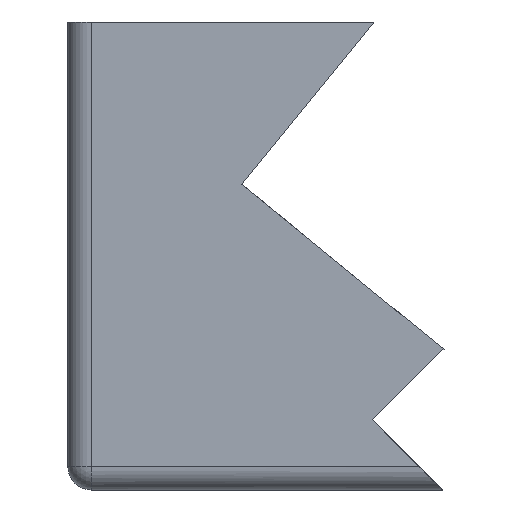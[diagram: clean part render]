
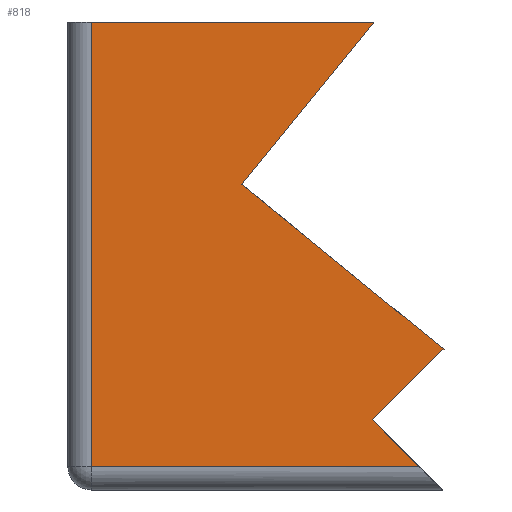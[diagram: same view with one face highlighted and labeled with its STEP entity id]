
A CAD part, front view. The second image highlights one B-rep face of the part: STEP entity #818.
In plain terms, the highlighted planar face has unit normal (0, -1, 0).
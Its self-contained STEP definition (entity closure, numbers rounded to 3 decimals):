
#32 = PLANE('',#33);
#33 = AXIS2_PLACEMENT_3D('',#34,#35,#36);
#34 = CARTESIAN_POINT('',(25.,0.,20.));
#35 = DIRECTION('',(0.,0.,-1.));
#36 = DIRECTION('',(-1.,0.,0.));
#57 = VERTEX_POINT('',#58);
#58 = CARTESIAN_POINT('',(-11.922,-45.,20.));
#72 = PLANE('',#73);
#73 = AXIS2_PLACEMENT_3D('',#74,#75,#76);
#74 = CARTESIAN_POINT('',(-17.58,0.,13.074));
#75 = DIRECTION('',(-0.774,0.,0.633));
#76 = DIRECTION('',(0.633,0.,0.774));
#84 = EDGE_CURVE('',#57,#85,#87,.T.);
#85 = VERTEX_POINT('',#86);
#86 = CARTESIAN_POINT('',(-24.,-45.,20.));
#87 = SURFACE_CURVE('',#88,(#92,#99),.PCURVE_S1.);
#88 = LINE('',#89,#90);
#89 = CARTESIAN_POINT('',(25.,-45.,20.));
#90 = VECTOR('',#91,1.);
#91 = DIRECTION('',(-1.,0.,0.));
#92 = PCURVE('',#32,#93);
#93 = DEFINITIONAL_REPRESENTATION('',(#94),#98);
#94 = LINE('',#95,#96);
#95 = CARTESIAN_POINT('',(0.,-45.));
#96 = VECTOR('',#97,1.);
#97 = DIRECTION('',(1.,0.));
#98 = ( GEOMETRIC_REPRESENTATION_CONTEXT(2) 
PARAMETRIC_REPRESENTATION_CONTEXT() REPRESENTATION_CONTEXT('2D SPACE',''
  ) );
#99 = PCURVE('',#100,#105);
#100 = PLANE('',#101);
#101 = AXIS2_PLACEMENT_3D('',#102,#103,#104);
#102 = CARTESIAN_POINT('',(0.,-45.,9.931));
#103 = DIRECTION('',(-0.,-1.,0.));
#104 = DIRECTION('',(0.,0.,-1.));
#105 = DEFINITIONAL_REPRESENTATION('',(#106),#110);
#106 = LINE('',#107,#108);
#107 = CARTESIAN_POINT('',(-10.069,25.));
#108 = VECTOR('',#109,1.);
#109 = DIRECTION('',(0.,-1.));
#110 = ( GEOMETRIC_REPRESENTATION_CONTEXT(2) 
PARAMETRIC_REPRESENTATION_CONTEXT() REPRESENTATION_CONTEXT('2D SPACE',''
  ) );
#133 = CYLINDRICAL_SURFACE('',#134,1.);
#134 = AXIS2_PLACEMENT_3D('',#135,#136,#137);
#135 = CARTESIAN_POINT('',(-24.,-44.,1.));
#136 = DIRECTION('',(0.,0.,1.));
#137 = DIRECTION('',(-1.,0.,0.));
#298 = PLANE('',#299);
#299 = AXIS2_PLACEMENT_3D('',#300,#301,#302);
#300 = CARTESIAN_POINT('',(-9.,0.,0.));
#301 = DIRECTION('',(-0.707,0.,-0.707
    ));
#302 = DIRECTION('',(-0.707,0.,0.707)
  );
#326 = PLANE('',#327);
#327 = AXIS2_PLACEMENT_3D('',#328,#329,#330);
#328 = CARTESIAN_POINT('',(-12.,0.,3.));
#329 = DIRECTION('',(-0.707,0.,0.707)
  );
#330 = DIRECTION('',(0.707,0.,0.707));
#354 = PLANE('',#355);
#355 = AXIS2_PLACEMENT_3D('',#356,#357,#358);
#356 = CARTESIAN_POINT('',(-9.,0.,6.));
#357 = DIRECTION('',(0.,0.,1.));
#358 = DIRECTION('',(1.,0.,0.));
#380 = PLANE('',#381);
#381 = AXIS2_PLACEMENT_3D('',#382,#383,#384);
#382 = CARTESIAN_POINT('',(-0.633,0.,-0.77));
#383 = DIRECTION('',(-0.633,0.,-0.774));
#384 = DIRECTION('',(-0.774,0.,0.633));
#768 = VERTEX_POINT('',#769);
#769 = CARTESIAN_POINT('',(-24.,-45.,1.));
#796 = EDGE_CURVE('',#768,#85,#797,.T.);
#797 = SURFACE_CURVE('',#798,(#802,#809),.PCURVE_S1.);
#798 = LINE('',#799,#800);
#799 = CARTESIAN_POINT('',(-24.,-45.,1.));
#800 = VECTOR('',#801,1.);
#801 = DIRECTION('',(0.,0.,1.));
#802 = PCURVE('',#133,#803);
#803 = DEFINITIONAL_REPRESENTATION('',(#804),#808);
#804 = LINE('',#805,#806);
#805 = CARTESIAN_POINT('',(1.571,0.));
#806 = VECTOR('',#807,1.);
#807 = DIRECTION('',(0.,1.));
#808 = ( GEOMETRIC_REPRESENTATION_CONTEXT(2) 
PARAMETRIC_REPRESENTATION_CONTEXT() REPRESENTATION_CONTEXT('2D SPACE',''
  ) );
#809 = PCURVE('',#100,#810);
#810 = DEFINITIONAL_REPRESENTATION('',(#811),#815);
#811 = LINE('',#812,#813);
#812 = CARTESIAN_POINT('',(8.931,-24.));
#813 = VECTOR('',#814,1.);
#814 = DIRECTION('',(-1.,0.));
#815 = ( GEOMETRIC_REPRESENTATION_CONTEXT(2) 
PARAMETRIC_REPRESENTATION_CONTEXT() REPRESENTATION_CONTEXT('2D SPACE',''
  ) );
#818 = ADVANCED_FACE('',(#819),#100,.T.);
#819 = FACE_BOUND('',#820,.T.);
#820 = EDGE_LOOP('',(#821,#822,#850,#873,#896,#919,#942,#963));
#821 = ORIENTED_EDGE('',*,*,#796,.F.);
#822 = ORIENTED_EDGE('',*,*,#823,.T.);
#823 = EDGE_CURVE('',#768,#824,#826,.T.);
#824 = VERTEX_POINT('',#825);
#825 = CARTESIAN_POINT('',(-10.,-45.,1.));
#826 = SURFACE_CURVE('',#827,(#831,#838),.PCURVE_S1.);
#827 = LINE('',#828,#829);
#828 = CARTESIAN_POINT('',(-25.,-45.,1.));
#829 = VECTOR('',#830,1.);
#830 = DIRECTION('',(1.,0.,0.));
#831 = PCURVE('',#100,#832);
#832 = DEFINITIONAL_REPRESENTATION('',(#833),#837);
#833 = LINE('',#834,#835);
#834 = CARTESIAN_POINT('',(8.931,-25.));
#835 = VECTOR('',#836,1.);
#836 = DIRECTION('',(0.,1.));
#837 = ( GEOMETRIC_REPRESENTATION_CONTEXT(2) 
PARAMETRIC_REPRESENTATION_CONTEXT() REPRESENTATION_CONTEXT('2D SPACE',''
  ) );
#838 = PCURVE('',#839,#844);
#839 = CYLINDRICAL_SURFACE('',#840,1.);
#840 = AXIS2_PLACEMENT_3D('',#841,#842,#843);
#841 = CARTESIAN_POINT('',(-25.,-44.,1.));
#842 = DIRECTION('',(1.,0.,0.));
#843 = DIRECTION('',(0.,-1.,0.));
#844 = DEFINITIONAL_REPRESENTATION('',(#845),#849);
#845 = LINE('',#846,#847);
#846 = CARTESIAN_POINT('',(0.,0.));
#847 = VECTOR('',#848,1.);
#848 = DIRECTION('',(0.,1.));
#849 = ( GEOMETRIC_REPRESENTATION_CONTEXT(2) 
PARAMETRIC_REPRESENTATION_CONTEXT() REPRESENTATION_CONTEXT('2D SPACE',''
  ) );
#850 = ORIENTED_EDGE('',*,*,#851,.T.);
#851 = EDGE_CURVE('',#824,#852,#854,.T.);
#852 = VERTEX_POINT('',#853);
#853 = CARTESIAN_POINT('',(-12.,-45.,3.));
#854 = SURFACE_CURVE('',#855,(#859,#866),.PCURVE_S1.);
#855 = LINE('',#856,#857);
#856 = CARTESIAN_POINT('',(-9.,-45.,0.));
#857 = VECTOR('',#858,1.);
#858 = DIRECTION('',(-0.707,0.,0.707)
  );
#859 = PCURVE('',#100,#860);
#860 = DEFINITIONAL_REPRESENTATION('',(#861),#865);
#861 = LINE('',#862,#863);
#862 = CARTESIAN_POINT('',(9.931,-9.));
#863 = VECTOR('',#864,1.);
#864 = DIRECTION('',(-0.707,-0.707));
#865 = ( GEOMETRIC_REPRESENTATION_CONTEXT(2) 
PARAMETRIC_REPRESENTATION_CONTEXT() REPRESENTATION_CONTEXT('2D SPACE',''
  ) );
#866 = PCURVE('',#298,#867);
#867 = DEFINITIONAL_REPRESENTATION('',(#868),#872);
#868 = LINE('',#869,#870);
#869 = CARTESIAN_POINT('',(0.,-45.));
#870 = VECTOR('',#871,1.);
#871 = DIRECTION('',(1.,0.));
#872 = ( GEOMETRIC_REPRESENTATION_CONTEXT(2) 
PARAMETRIC_REPRESENTATION_CONTEXT() REPRESENTATION_CONTEXT('2D SPACE',''
  ) );
#873 = ORIENTED_EDGE('',*,*,#874,.T.);
#874 = EDGE_CURVE('',#852,#875,#877,.T.);
#875 = VERTEX_POINT('',#876);
#876 = CARTESIAN_POINT('',(-9.,-45.,6.));
#877 = SURFACE_CURVE('',#878,(#882,#889),.PCURVE_S1.);
#878 = LINE('',#879,#880);
#879 = CARTESIAN_POINT('',(-12.,-45.,3.));
#880 = VECTOR('',#881,1.);
#881 = DIRECTION('',(0.707,0.,0.707));
#882 = PCURVE('',#100,#883);
#883 = DEFINITIONAL_REPRESENTATION('',(#884),#888);
#884 = LINE('',#885,#886);
#885 = CARTESIAN_POINT('',(6.931,-12.));
#886 = VECTOR('',#887,1.);
#887 = DIRECTION('',(-0.707,0.707));
#888 = ( GEOMETRIC_REPRESENTATION_CONTEXT(2) 
PARAMETRIC_REPRESENTATION_CONTEXT() REPRESENTATION_CONTEXT('2D SPACE',''
  ) );
#889 = PCURVE('',#326,#890);
#890 = DEFINITIONAL_REPRESENTATION('',(#891),#895);
#891 = LINE('',#892,#893);
#892 = CARTESIAN_POINT('',(0.,-45.));
#893 = VECTOR('',#894,1.);
#894 = DIRECTION('',(1.,0.));
#895 = ( GEOMETRIC_REPRESENTATION_CONTEXT(2) 
PARAMETRIC_REPRESENTATION_CONTEXT() REPRESENTATION_CONTEXT('2D SPACE',''
  ) );
#896 = ORIENTED_EDGE('',*,*,#897,.T.);
#897 = EDGE_CURVE('',#875,#898,#900,.T.);
#898 = VERTEX_POINT('',#899);
#899 = CARTESIAN_POINT('',(-8.92,-45.,6.));
#900 = SURFACE_CURVE('',#901,(#905,#912),.PCURVE_S1.);
#901 = LINE('',#902,#903);
#902 = CARTESIAN_POINT('',(-9.,-45.,6.));
#903 = VECTOR('',#904,1.);
#904 = DIRECTION('',(1.,0.,0.));
#905 = PCURVE('',#100,#906);
#906 = DEFINITIONAL_REPRESENTATION('',(#907),#911);
#907 = LINE('',#908,#909);
#908 = CARTESIAN_POINT('',(3.931,-9.));
#909 = VECTOR('',#910,1.);
#910 = DIRECTION('',(0.,1.));
#911 = ( GEOMETRIC_REPRESENTATION_CONTEXT(2) 
PARAMETRIC_REPRESENTATION_CONTEXT() REPRESENTATION_CONTEXT('2D SPACE',''
  ) );
#912 = PCURVE('',#354,#913);
#913 = DEFINITIONAL_REPRESENTATION('',(#914),#918);
#914 = LINE('',#915,#916);
#915 = CARTESIAN_POINT('',(0.,-45.));
#916 = VECTOR('',#917,1.);
#917 = DIRECTION('',(1.,0.));
#918 = ( GEOMETRIC_REPRESENTATION_CONTEXT(2) 
PARAMETRIC_REPRESENTATION_CONTEXT() REPRESENTATION_CONTEXT('2D SPACE',''
  ) );
#919 = ORIENTED_EDGE('',*,*,#920,.F.);
#920 = EDGE_CURVE('',#921,#898,#923,.T.);
#921 = VERTEX_POINT('',#922);
#922 = CARTESIAN_POINT('',(-17.58,-45.,13.074));
#923 = SURFACE_CURVE('',#924,(#928,#935),.PCURVE_S1.);
#924 = LINE('',#925,#926);
#925 = CARTESIAN_POINT('',(-3.065,-45.,1.216));
#926 = VECTOR('',#927,1.);
#927 = DIRECTION('',(0.774,0.,-0.633));
#928 = PCURVE('',#100,#929);
#929 = DEFINITIONAL_REPRESENTATION('',(#930),#934);
#930 = LINE('',#931,#932);
#931 = CARTESIAN_POINT('',(8.715,-3.065));
#932 = VECTOR('',#933,1.);
#933 = DIRECTION('',(0.633,0.774));
#934 = ( GEOMETRIC_REPRESENTATION_CONTEXT(2) 
PARAMETRIC_REPRESENTATION_CONTEXT() REPRESENTATION_CONTEXT('2D SPACE',''
  ) );
#935 = PCURVE('',#380,#936);
#936 = DEFINITIONAL_REPRESENTATION('',(#937),#941);
#937 = LINE('',#938,#939);
#938 = CARTESIAN_POINT('',(3.14,-45.));
#939 = VECTOR('',#940,1.);
#940 = DIRECTION('',(-1.,0.));
#941 = ( GEOMETRIC_REPRESENTATION_CONTEXT(2) 
PARAMETRIC_REPRESENTATION_CONTEXT() REPRESENTATION_CONTEXT('2D SPACE',''
  ) );
#942 = ORIENTED_EDGE('',*,*,#943,.F.);
#943 = EDGE_CURVE('',#57,#921,#944,.T.);
#944 = SURFACE_CURVE('',#945,(#949,#956),.PCURVE_S1.);
#945 = LINE('',#946,#947);
#946 = CARTESIAN_POINT('',(-14.832,-45.,16.438));
#947 = VECTOR('',#948,1.);
#948 = DIRECTION('',(-0.633,0.,-0.774
    ));
#949 = PCURVE('',#100,#950);
#950 = DEFINITIONAL_REPRESENTATION('',(#951),#955);
#951 = LINE('',#952,#953);
#952 = CARTESIAN_POINT('',(-6.507,-14.832));
#953 = VECTOR('',#954,1.);
#954 = DIRECTION('',(0.774,-0.633));
#955 = ( GEOMETRIC_REPRESENTATION_CONTEXT(2) 
PARAMETRIC_REPRESENTATION_CONTEXT() REPRESENTATION_CONTEXT('2D SPACE',''
  ) );
#956 = PCURVE('',#72,#957);
#957 = DEFINITIONAL_REPRESENTATION('',(#958),#962);
#958 = LINE('',#959,#960);
#959 = CARTESIAN_POINT('',(4.344,-45.));
#960 = VECTOR('',#961,1.);
#961 = DIRECTION('',(-1.,0.));
#962 = ( GEOMETRIC_REPRESENTATION_CONTEXT(2) 
PARAMETRIC_REPRESENTATION_CONTEXT() REPRESENTATION_CONTEXT('2D SPACE',''
  ) );
#963 = ORIENTED_EDGE('',*,*,#84,.T.);
